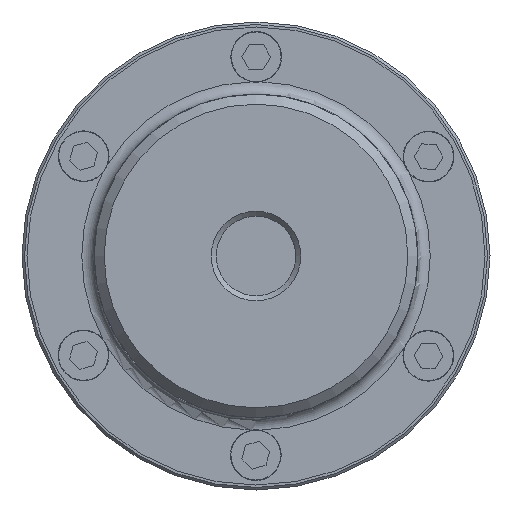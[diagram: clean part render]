
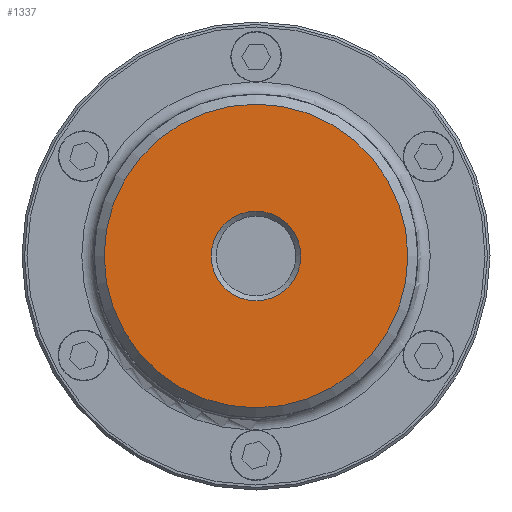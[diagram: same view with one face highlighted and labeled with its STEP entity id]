
A CAD part, left-side view. The second image highlights one B-rep face of the part: STEP entity #1337.
In plain terms, the highlighted planar face has unit normal (-1, 0, 0) as drawn and (0, 0, -1) by its records, which use the part's own axes.
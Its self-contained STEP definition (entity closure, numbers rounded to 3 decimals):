
#1337 = ADVANCED_FACE( '', ( #2725, #2726 ), #2727, .T. );
#2725 = FACE_OUTER_BOUND( '', #4406, .T. );
#2726 = FACE_BOUND( '', #4407, .T. );
#2727 = PLANE( '', #4408 );
#4406 = EDGE_LOOP( '', ( #6471 ) );
#4407 = EDGE_LOOP( '', ( #6472 ) );
#4408 = AXIS2_PLACEMENT_3D( '', #6473, #6474, #6475 );
#6471 = ORIENTED_EDGE( '', *, *, #9184, .T. );
#6472 = ORIENTED_EDGE( '', *, *, #9185, .T. );
#6473 = CARTESIAN_POINT( '', ( 0., 0., 0. ) );
#6474 = DIRECTION( '', ( 0., 0., -1. ) );
#6475 = DIRECTION( '', ( -1., 0., 0. ) );
#9184 = EDGE_CURVE( '', #10750, #10750, #10751, .T. );
#9185 = EDGE_CURVE( '', #10752, #10752, #10753, .F. );
#10750 = VERTEX_POINT( '', #13312 );
#10751 = CIRCLE( '', #13313, 30.5 );
#10752 = VERTEX_POINT( '', #13314 );
#10753 = CIRCLE( '', #13315, 9. );
#13312 = CARTESIAN_POINT( '', ( -30.5, 0., 0. ) );
#13313 = AXIS2_PLACEMENT_3D( '', #15378, #15379, #15380 );
#13314 = CARTESIAN_POINT( '', ( -9., 0., 0. ) );
#13315 = AXIS2_PLACEMENT_3D( '', #15381, #15382, #15383 );
#15378 = CARTESIAN_POINT( '', ( 0., 0., 0. ) );
#15379 = DIRECTION( '', ( 0., 0., -1. ) );
#15380 = DIRECTION( '', ( -1., 0., 0. ) );
#15381 = CARTESIAN_POINT( '', ( 0., 0., 0. ) );
#15382 = DIRECTION( '', ( 0., 0., -1. ) );
#15383 = DIRECTION( '', ( -1., 0., 0. ) );
